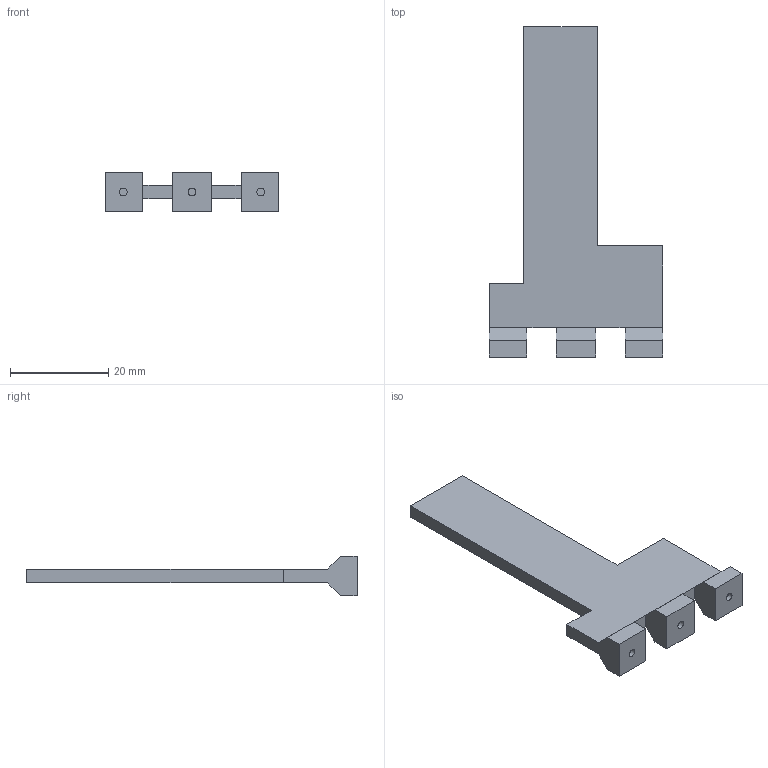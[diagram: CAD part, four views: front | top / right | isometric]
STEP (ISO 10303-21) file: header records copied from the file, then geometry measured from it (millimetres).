
FILE_DESCRIPTION(/* description */ (''),/* implementation_level */ '2;1');
FILE_NAME(/* name */ 'V:\Flow\Inventor\PEEK\Reaktoren\PEEK_20_Anschluss mittig1,6mm 4 Linien - 4 Mischer.stp',/* time_stamp */ '2020-05-22T11:42:00+02:00',/* author */ ('JN'),/* organization */ (''),/* preprocessor_version */ 'ST-DEVELOPER v17',/* originating_system */ 'Autodesk Inventor 2018',/* authorisation */ '');
FILE_SCHEMA (('AUTOMOTIVE_DESIGN { 1 0 10303 214 3 1 1 }'));
Products named in the file (1): Reaktor_1_PEEK
Bounding box: 35.36 x 67.28 x 8 mm (x, y, z)
Volume: 3761.2 mm3; surface area: 6986.7 mm2
Topology: 1 solids, 1 shells, 2112 faces, 6466 edges, 4111 vertices
Faces by surface type: plane 2097, bspline 12, cylinder 3
Full cylindrical faces by diameter (mm): 1.6 x3
Entity records: 72336 total; most frequent: CARTESIAN_POINT 12954, ORIENTED_EDGE 12932, DIRECTION 10683, EDGE_CURVE 6466, LINE 6427, VECTOR 6427, VERTEX_POINT 4111, EDGE_LOOP 2951
